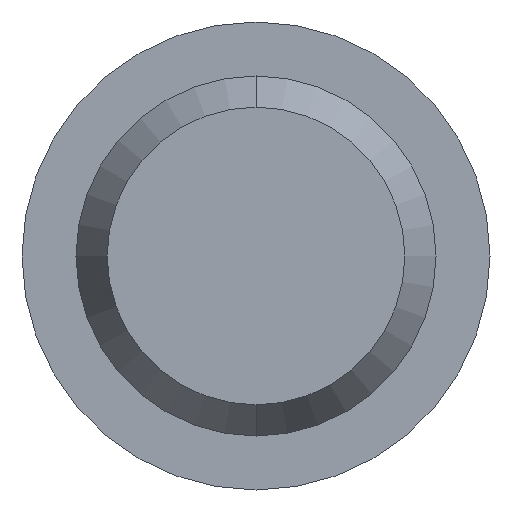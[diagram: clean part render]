
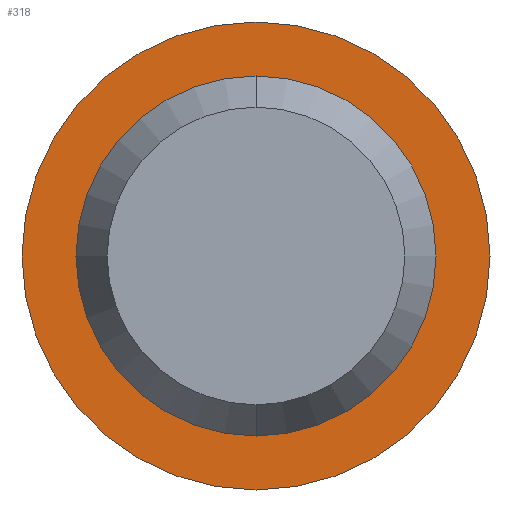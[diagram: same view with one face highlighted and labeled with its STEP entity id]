
A CAD part, front view. The second image highlights one B-rep face of the part: STEP entity #318.
In plain terms, the highlighted planar face has unit normal (0, -1, 0).
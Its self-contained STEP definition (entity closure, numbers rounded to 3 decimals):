
#112 = CIRCLE ( 'NONE', #495, 13. ) ;
#120 = CARTESIAN_POINT ( 'NONE',  ( 0., 0., 10. ) ) ;
#153 = DIRECTION ( 'NONE',  ( 0., 1., 0. ) ) ;
#172 = EDGE_CURVE ( 'NONE', #368, #814, #262, .T. ) ;
#209 = CARTESIAN_POINT ( 'NONE',  ( 0., 0., -10. ) ) ;
#217 = DIRECTION ( 'NONE',  ( 0., 0., 1. ) ) ;
#220 = DIRECTION ( 'NONE',  ( 0., -1., 0. ) ) ;
#262 = CIRCLE ( 'NONE', #672, 13. ) ;
#280 = ORIENTED_EDGE ( 'NONE', *, *, #1182, .T. ) ;
#294 = CARTESIAN_POINT ( 'NONE',  ( 0., 0., -13. ) ) ;
#297 = DIRECTION ( 'NONE',  ( 0., 1., 0. ) ) ;
#318 = ADVANCED_FACE ( 'NONE', ( #631, #678 ), #571, .T. ) ;
#344 = VERTEX_POINT ( 'NONE', #120 ) ;
#356 = VERTEX_POINT ( 'NONE', #209 ) ;
#368 = VERTEX_POINT ( 'NONE', #294 ) ;
#395 = EDGE_LOOP ( 'NONE', ( #583, #795 ) ) ;
#495 = AXIS2_PLACEMENT_3D ( 'NONE', #833, #653, #815 ) ;
#504 = ORIENTED_EDGE ( 'NONE', *, *, #172, .T. ) ;
#529 = EDGE_CURVE ( 'NONE', #344, #356, #1124, .T. ) ;
#571 = PLANE ( 'NONE',  #770 ) ;
#583 = ORIENTED_EDGE ( 'NONE', *, *, #529, .T. ) ;
#586 = CARTESIAN_POINT ( 'NONE',  ( 0., 0., -3.2 ) ) ;
#619 = EDGE_LOOP ( 'NONE', ( #504, #280 ) ) ;
#631 = FACE_BOUND ( 'NONE', #395, .T. ) ;
#650 = DIRECTION ( 'NONE',  ( 0., 0., -1. ) ) ;
#653 = DIRECTION ( 'NONE',  ( 0., -1., 0. ) ) ;
#672 = AXIS2_PLACEMENT_3D ( 'NONE', #779, #220, #650 ) ;
#678 = FACE_OUTER_BOUND ( 'NONE', #619, .T. ) ;
#720 = AXIS2_PLACEMENT_3D ( 'NONE', #867, #153, #217 ) ;
#747 = CARTESIAN_POINT ( 'NONE',  ( 0., 0., 13. ) ) ;
#753 = CARTESIAN_POINT ( 'NONE',  ( 0., 0., 0. ) ) ;
#770 = AXIS2_PLACEMENT_3D ( 'NONE', #586, #1036, #1128 ) ;
#779 = CARTESIAN_POINT ( 'NONE',  ( 0., 0., 0. ) ) ;
#795 = ORIENTED_EDGE ( 'NONE', *, *, #856, .T. ) ;
#814 = VERTEX_POINT ( 'NONE', #747 ) ;
#815 = DIRECTION ( 'NONE',  ( 0., 0., -1. ) ) ;
#833 = CARTESIAN_POINT ( 'NONE',  ( 0., 0., 0. ) ) ;
#856 = EDGE_CURVE ( 'NONE', #356, #344, #888, .T. ) ;
#867 = CARTESIAN_POINT ( 'NONE',  ( 0., 0., 0. ) ) ;
#888 = CIRCLE ( 'NONE', #1031, 10. ) ;
#1031 = AXIS2_PLACEMENT_3D ( 'NONE', #753, #297, #1116 ) ;
#1036 = DIRECTION ( 'NONE',  ( 0., -1., 0. ) ) ;
#1116 = DIRECTION ( 'NONE',  ( 0., 0., 1. ) ) ;
#1124 = CIRCLE ( 'NONE', #720, 10. ) ;
#1128 = DIRECTION ( 'NONE',  ( 0., 0., -1. ) ) ;
#1182 = EDGE_CURVE ( 'NONE', #814, #368, #112, .T. ) ;
